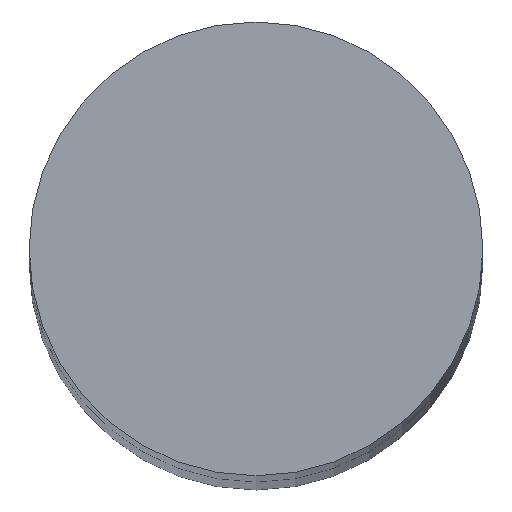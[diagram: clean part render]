
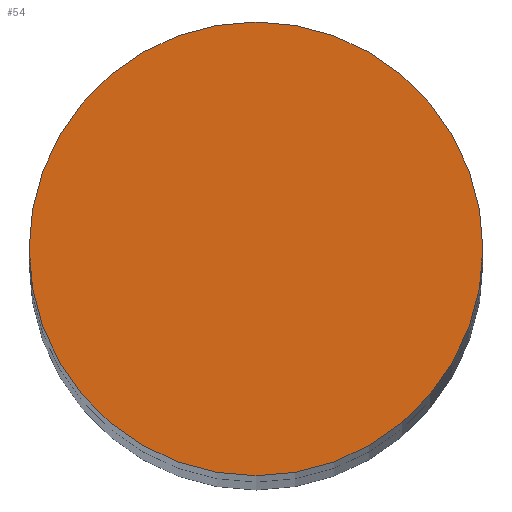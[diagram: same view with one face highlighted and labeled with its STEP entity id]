
A CAD part, top view. The second image highlights one B-rep face of the part: STEP entity #54.
In plain terms, the highlighted planar face has unit normal (0, 0, 1).
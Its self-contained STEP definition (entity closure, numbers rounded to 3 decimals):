
#54=ADVANCED_FACE('',(#104),#105,.T.);
#104=FACE_OUTER_BOUND('',#147,.T.);
#105=PLANE('',#148);
#147=EDGE_LOOP('',(#226,#227));
#148=AXIS2_PLACEMENT_3D('',#228,#229,#230);
#226=ORIENTED_EDGE('',*,*,#268,.T.);
#227=ORIENTED_EDGE('',*,*,#242,.T.);
#228=CARTESIAN_POINT('',(0.0,0.0,0.0));
#229=DIRECTION('',(0.0,0.0,1.0));
#230=DIRECTION('',(1.0,0.0,0.0));
#242=EDGE_CURVE('',#276,#273,#277,.T.);
#268=EDGE_CURVE('',#273,#276,#313,.T.);
#273=VERTEX_POINT('',#318);
#276=VERTEX_POINT('',#322);
#277=CIRCLE('',#323,2.05);
#313=CIRCLE('',#366,2.05);
#318=CARTESIAN_POINT('',(-2.05,0.0,0.0));
#322=CARTESIAN_POINT('',(2.05,0.,0.0));
#323=AXIS2_PLACEMENT_3D('',#371,#372,#373);
#366=AXIS2_PLACEMENT_3D('',#411,#412,#413);
#371=CARTESIAN_POINT('',(0.0,0.0,0.0));
#372=DIRECTION('',(0.0,0.0,1.0));
#373=DIRECTION('',(-1.0,0.0,0.0));
#411=CARTESIAN_POINT('',(0.0,0.0,0.0));
#412=DIRECTION('',(0.0,0.0,1.0));
#413=DIRECTION('',(-1.0,0.0,0.0));
